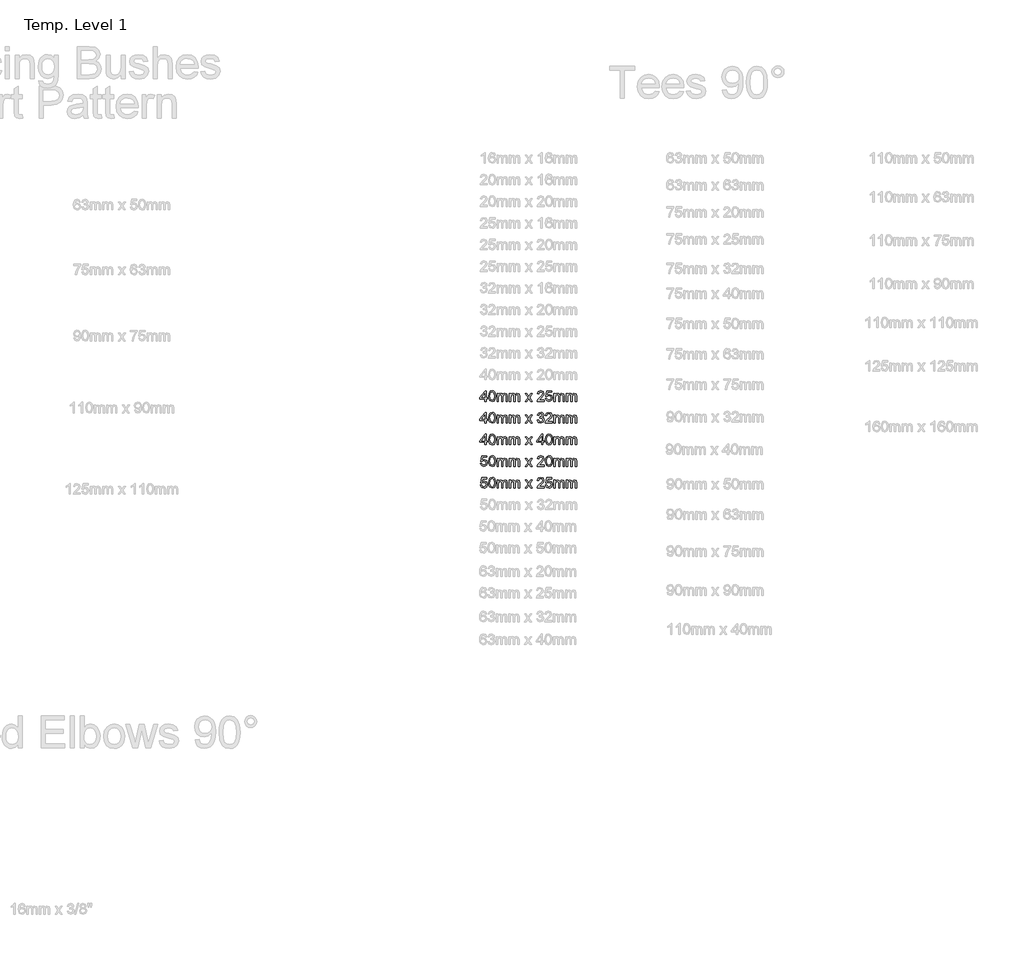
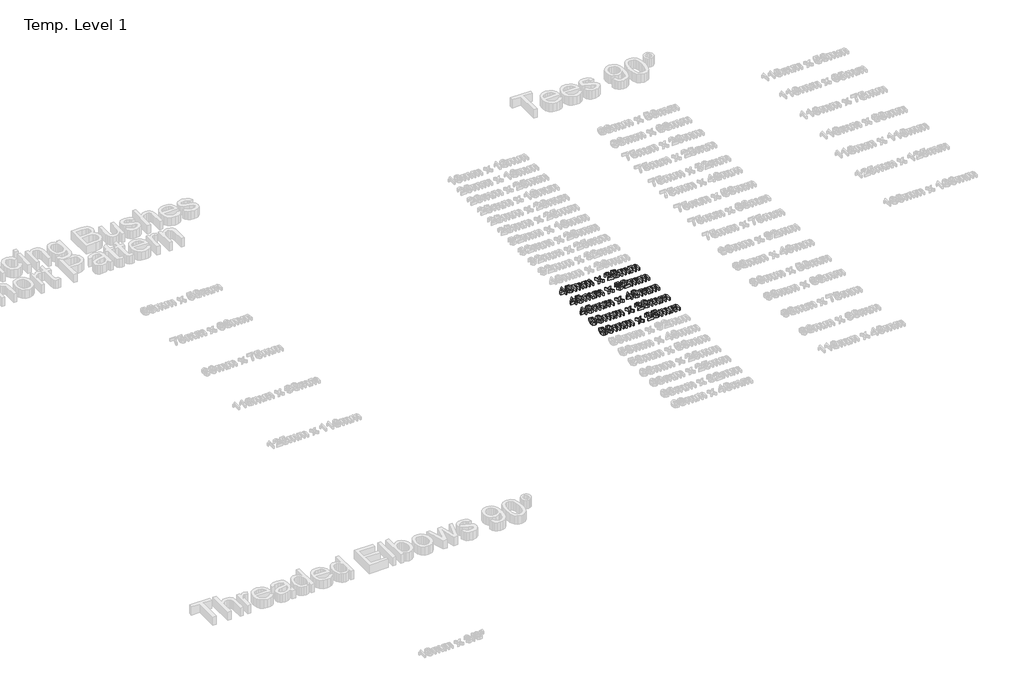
# One storey, part 27 of 62: 5 proxies.
"""IFC4 building model written with IfcOpenShell, lengths in millimetres."""

from ifc_helpers import new_model, si_unit, origin, origin_with_axes, place, context, project, spatial, polyline, outline, extrude, element, save

model = new_model("IFC4")

# Units and contexts
model_context = context("Model", 3, world=origin())
ifc_project = project(units=[si_unit("LENGTHUNIT", "METRE", prefix="MILLI")], contexts=[model_context])

# Site, building, storey
site = spatial("IfcSite", under=ifc_project)
building = spatial("IfcBuilding", under=site)
storey = spatial("IfcBuildingStorey", under=building, Name="Temp. Level 1", Elevation=0.0)

# Proxies
placement = place(None, origin())
element("IfcBuildingElementProxy", 1, Name="50mm Arial", ObjectType="50mm Arial", at=placement, inside=storey, context=model_context, shape_type="SweptSolid", body=[
    extrude(outline(polyline([(26435.7186344, -8469.5564984), (26435.7186344, -8458.0180369), (26413.4109421, -8458.0180369), (26413.4109421, -8451.8641908), (26437.257096, -8421.09496), (26441.8724806, -8421.09496), (26441.8724806, -8451.8641908), (26448.0263267, -8451.8641908), (26448.0263267, -8458.0180369), (26441.8724806, -8458.0180369), (26441.8724806, -8469.5564984), (26435.7186344, -8469.5564984)]), holes=[polyline([(26435.7186344, -8451.8641908), (26435.7186344, -8432.8497677), (26420.9830575, -8451.8641908), (26435.7186344, -8451.8641908)])]), origin_with_axes(), (0.0, 0.0, 1.0), 15.0),
    extrude(outline(polyline([(26453.4109421, -8445.3377484), (26455.2198363, -8431.173085), (26460.5924325, -8423.0060177), (26469.5647883, -8420.3257292), (26476.7522883, -8421.9122677), (26481.7162306, -8426.485585), (26484.600846, -8433.7692388), (26485.7186344, -8445.3377484), (26483.927769, -8459.4423158), (26478.5732017, -8467.6274119), (26469.5647883, -8470.3257292), (26458.3147883, -8465.6382292), (26454.6369036, -8457.3119071), (26453.4109421, -8445.3377484)]), holes=[polyline([(26459.5647883, -8445.3257292), (26462.4494036, -8460.6081811), (26469.5647883, -8464.1718831), (26476.6801729, -8460.5961619), (26479.5647883, -8445.3257292), (26476.7763267, -8430.2175561), (26469.4926729, -8426.4795754), (26462.5455575, -8429.7728446), (26459.5647883, -8445.3257292)])]), origin_with_axes(), (0.0, 0.0, 1.0), 15.0),
    extrude(outline(polyline([(26492.6417113, -8469.5564984), (26492.6417113, -8433.4026523), (26498.7955575, -8433.4026523), (26498.7955575, -8439.3521715), (26503.0263267, -8434.4783734), (26509.0479613, -8432.6334215), (26515.2138267, -8434.5144311), (26518.6032498, -8439.7848638), (26523.4049325, -8434.4212821), (26529.4686344, -8432.6334215), (26537.5155094, -8435.6081811), (26540.334019, -8444.7728446), (26540.334019, -8469.5564984), (26534.1801729, -8469.5564984), (26534.1801729, -8447.4170754), (26533.6092594, -8442.2788542), (26531.5419517, -8439.7488061), (26528.0263267, -8438.7872677), (26521.974644, -8441.25121), (26519.5647883, -8449.1478446), (26519.5647883, -8469.5564984), (26513.4109421, -8469.5564984), (26513.4109421, -8446.7319792), (26511.9866633, -8440.7704408), (26507.3171921, -8438.7872677), (26502.7619036, -8440.1093831), (26499.7330575, -8443.9795754), (26498.7955575, -8451.3233254), (26498.7955575, -8469.5564984), (26492.6417113, -8469.5564984)])), origin_with_axes(), (0.0, 0.0, 1.0), 15.0),
    extrude(outline(polyline([(26549.5647883, -8469.5564984), (26549.5647883, -8433.4026523), (26555.7186344, -8433.4026523), (26555.7186344, -8439.3521715), (26559.9494036, -8434.4783734), (26565.9710383, -8432.6334215), (26572.1369036, -8434.5144311), (26575.5263267, -8439.7848638), (26580.3280094, -8434.4212821), (26586.3917113, -8432.6334215), (26594.4385863, -8435.6081811), (26597.257096, -8444.7728446), (26597.257096, -8469.5564984), (26591.1032498, -8469.5564984), (26591.1032498, -8447.4170754), (26590.5323363, -8442.2788542), (26588.4650286, -8439.7488061), (26584.9494036, -8438.7872677), (26578.897721, -8441.25121), (26576.4878652, -8449.1478446), (26576.4878652, -8469.5564984), (26570.334019, -8469.5564984), (26570.334019, -8446.7319792), (26568.9097402, -8440.7704408), (26564.240269, -8438.7872677), (26559.6849806, -8440.1093831), (26556.6561344, -8443.9795754), (26555.7186344, -8451.3233254), (26555.7186344, -8469.5564984), (26549.5647883, -8469.5564984)])), origin_with_axes(), (0.0, 0.0, 1.0), 15.0),
    extrude(outline(polyline([(26621.8724806, -8469.5564984), (26635.021519, -8451.3834215), (26622.6417113, -8433.4026523), (26630.0455575, -8433.4026523), (26636.0191152, -8442.0564984), (26638.8075767, -8446.1430369), (26641.2234421, -8442.8016908), (26648.0263267, -8433.4026523), (26655.4301729, -8433.4026523), (26642.4253652, -8451.3834215), (26654.9494036, -8469.5564984), (26647.5455575, -8469.5564984), (26640.0094998, -8458.6310177), (26638.6272883, -8456.6358254), (26629.2763267, -8469.5564984), (26621.8724806, -8469.5564984)])), origin_with_axes(), (0.0, 0.0, 1.0), 15.0),
    extrude(outline(polyline([(26709.5647883, -8463.4026523), (26709.5647883, -8469.5564984), (26677.257096, -8469.5564984), (26677.9181536, -8465.31371), (26681.6561344, -8458.7812581), (26689.3604613, -8451.6478446), (26699.9854613, -8441.3954408), (26702.6417113, -8434.4242869), (26700.1357017, -8428.7812581), (26693.5912306, -8426.4795754), (26686.7703171, -8428.7271715), (26684.1801729, -8434.9411138), (26678.0263267, -8434.1718831), (26682.7438748, -8423.8714023), (26693.7234421, -8420.3257292), (26704.7390671, -8424.2680369), (26708.7955575, -8434.0516908), (26707.7018075, -8439.8870273), (26704.0659902, -8445.9206811), (26695.2498844, -8454.3521715), (26688.1705575, -8460.2716427), (26685.3941152, -8463.4026523), (26709.5647883, -8463.4026523)])), origin_with_axes(), (0.0, 0.0, 1.0), 15.0),
    extrude(outline(polyline([(26715.7186344, -8456.4795754), (26721.8724806, -8455.7103446), (26724.9734421, -8462.0504888), (26731.4037306, -8464.1718831), (26739.1200767, -8461.2211619), (26741.8724806, -8453.3906331), (26739.2943556, -8446.0829408), (26731.4998844, -8443.4026523), (26726.0972402, -8444.4723638), (26722.6417113, -8447.2488061), (26716.4878652, -8446.4795754), (26721.8724806, -8421.09496), (26745.7186344, -8421.09496), (26745.7186344, -8427.2488061), (26726.8484421, -8427.2488061), (26724.2162306, -8440.8064984), (26733.2186344, -8437.2488061), (26743.741471, -8441.6598638), (26748.0263267, -8453.0060177), (26744.1681536, -8464.4242869), (26738.6272883, -8468.8503686), (26731.3796921, -8470.3257292), (26720.5203171, -8466.5336619), (26715.7186344, -8456.4795754)])), origin_with_axes(), (0.0, 0.0, 1.0), 15.0),
    extrude(outline(polyline([(26754.9494036, -8469.5564984), (26754.9494036, -8433.4026523), (26761.1032498, -8433.4026523), (26761.1032498, -8439.3521715), (26765.334019, -8434.4783734), (26771.3556536, -8432.6334215), (26777.521519, -8434.5144311), (26780.9109421, -8439.7848638), (26785.7126248, -8434.4212821), (26791.7763267, -8432.6334215), (26799.8232017, -8435.6081811), (26802.6417113, -8444.7728446), (26802.6417113, -8469.5564984), (26796.4878652, -8469.5564984), (26796.4878652, -8447.4170754), (26795.9169517, -8442.2788542), (26793.849644, -8439.7488061), (26790.334019, -8438.7872677), (26784.2823363, -8441.25121), (26781.8724806, -8449.1478446), (26781.8724806, -8469.5564984), (26775.7186344, -8469.5564984), (26775.7186344, -8446.7319792), (26774.2943556, -8440.7704408), (26769.6248844, -8438.7872677), (26765.069596, -8440.1093831), (26762.0407498, -8443.9795754), (26761.1032498, -8451.3233254), (26761.1032498, -8469.5564984), (26754.9494036, -8469.5564984)])), origin_with_axes(), (0.0, 0.0, 1.0), 15.0),
    extrude(outline(polyline([(26811.8724806, -8469.5564984), (26811.8724806, -8433.4026523), (26818.0263267, -8433.4026523), (26818.0263267, -8439.3521715), (26822.257096, -8434.4783734), (26828.2787306, -8432.6334215), (26834.444596, -8434.5144311), (26837.834019, -8439.7848638), (26842.6357017, -8434.4212821), (26848.6994036, -8432.6334215), (26856.7462786, -8435.6081811), (26859.5647883, -8444.7728446), (26859.5647883, -8469.5564984), (26853.4109421, -8469.5564984), (26853.4109421, -8447.4170754), (26852.8400286, -8442.2788542), (26850.772721, -8439.7488061), (26847.257096, -8438.7872677), (26841.2054133, -8441.25121), (26838.7955575, -8449.1478446), (26838.7955575, -8469.5564984), (26832.6417113, -8469.5564984), (26832.6417113, -8446.7319792), (26831.2174325, -8440.7704408), (26826.5479613, -8438.7872677), (26821.9926729, -8440.1093831), (26818.9638267, -8443.9795754), (26818.0263267, -8451.3233254), (26818.0263267, -8469.5564984), (26811.8724806, -8469.5564984)])), origin_with_axes(), (0.0, 0.0, 1.0), 15.0),
])
element("IfcBuildingElementProxy", 2, Name="50mm Arial", ObjectType="50mm Arial", at=placement, inside=storey, context=model_context, shape_type="SweptSolid", body=[
    extrude(outline(polyline([(26435.7186344, -8569.5564984), (26435.7186344, -8558.0180369), (26413.4109421, -8558.0180369), (26413.4109421, -8551.8641908), (26437.257096, -8521.09496), (26441.8724806, -8521.09496), (26441.8724806, -8551.8641908), (26448.0263267, -8551.8641908), (26448.0263267, -8558.0180369), (26441.8724806, -8558.0180369), (26441.8724806, -8569.5564984), (26435.7186344, -8569.5564984)]), holes=[polyline([(26435.7186344, -8551.8641908), (26435.7186344, -8532.8497677), (26420.9830575, -8551.8641908), (26435.7186344, -8551.8641908)])]), origin_with_axes(), (0.0, 0.0, 1.0), 15.0),
    extrude(outline(polyline([(26453.4109421, -8545.3377484), (26455.2198363, -8531.173085), (26460.5924325, -8523.0060177), (26469.5647883, -8520.3257292), (26476.7522883, -8521.9122677), (26481.7162306, -8526.485585), (26484.600846, -8533.7692388), (26485.7186344, -8545.3377484), (26483.927769, -8559.4423158), (26478.5732017, -8567.6274119), (26469.5647883, -8570.3257292), (26458.3147883, -8565.6382292), (26454.6369036, -8557.3119071), (26453.4109421, -8545.3377484)]), holes=[polyline([(26459.5647883, -8545.3257292), (26462.4494036, -8560.6081811), (26469.5647883, -8564.1718831), (26476.6801729, -8560.5961619), (26479.5647883, -8545.3257292), (26476.7763267, -8530.2175561), (26469.4926729, -8526.4795754), (26462.5455575, -8529.7728446), (26459.5647883, -8545.3257292)])]), origin_with_axes(), (0.0, 0.0, 1.0), 15.0),
    extrude(outline(polyline([(26492.6417113, -8569.5564984), (26492.6417113, -8533.4026523), (26498.7955575, -8533.4026523), (26498.7955575, -8539.3521715), (26503.0263267, -8534.4783734), (26509.0479613, -8532.6334215), (26515.2138267, -8534.5144311), (26518.6032498, -8539.7848638), (26523.4049325, -8534.4212821), (26529.4686344, -8532.6334215), (26537.5155094, -8535.6081811), (26540.334019, -8544.7728446), (26540.334019, -8569.5564984), (26534.1801729, -8569.5564984), (26534.1801729, -8547.4170754), (26533.6092594, -8542.2788542), (26531.5419517, -8539.7488061), (26528.0263267, -8538.7872677), (26521.974644, -8541.25121), (26519.5647883, -8549.1478446), (26519.5647883, -8569.5564984), (26513.4109421, -8569.5564984), (26513.4109421, -8546.7319792), (26511.9866633, -8540.7704408), (26507.3171921, -8538.7872677), (26502.7619036, -8540.1093831), (26499.7330575, -8543.9795754), (26498.7955575, -8551.3233254), (26498.7955575, -8569.5564984), (26492.6417113, -8569.5564984)])), origin_with_axes(), (0.0, 0.0, 1.0), 15.0),
    extrude(outline(polyline([(26549.5647883, -8569.5564984), (26549.5647883, -8533.4026523), (26555.7186344, -8533.4026523), (26555.7186344, -8539.3521715), (26559.9494036, -8534.4783734), (26565.9710383, -8532.6334215), (26572.1369036, -8534.5144311), (26575.5263267, -8539.7848638), (26580.3280094, -8534.4212821), (26586.3917113, -8532.6334215), (26594.4385863, -8535.6081811), (26597.257096, -8544.7728446), (26597.257096, -8569.5564984), (26591.1032498, -8569.5564984), (26591.1032498, -8547.4170754), (26590.5323363, -8542.2788542), (26588.4650286, -8539.7488061), (26584.9494036, -8538.7872677), (26578.897721, -8541.25121), (26576.4878652, -8549.1478446), (26576.4878652, -8569.5564984), (26570.334019, -8569.5564984), (26570.334019, -8546.7319792), (26568.9097402, -8540.7704408), (26564.240269, -8538.7872677), (26559.6849806, -8540.1093831), (26556.6561344, -8543.9795754), (26555.7186344, -8551.3233254), (26555.7186344, -8569.5564984), (26549.5647883, -8569.5564984)])), origin_with_axes(), (0.0, 0.0, 1.0), 15.0),
    extrude(outline(polyline([(26621.8724806, -8569.5564984), (26635.021519, -8551.3834215), (26622.6417113, -8533.4026523), (26630.0455575, -8533.4026523), (26636.0191152, -8542.0564984), (26638.8075767, -8546.1430369), (26641.2234421, -8542.8016908), (26648.0263267, -8533.4026523), (26655.4301729, -8533.4026523), (26642.4253652, -8551.3834215), (26654.9494036, -8569.5564984), (26647.5455575, -8569.5564984), (26640.0094998, -8558.6310177), (26638.6272883, -8556.6358254), (26629.2763267, -8569.5564984), (26621.8724806, -8569.5564984)])), origin_with_axes(), (0.0, 0.0, 1.0), 15.0),
    extrude(outline(polyline([(26678.0263267, -8556.4795754), (26684.1801729, -8555.7103446), (26687.5756056, -8562.18871), (26693.927769, -8564.1718831), (26701.4037306, -8561.4435177), (26704.1801729, -8554.68871), (26701.427769, -8548.3245273), (26694.4325767, -8545.8064984), (26690.1176729, -8546.4795754), (26690.802769, -8540.3257292), (26698.771519, -8538.6310177), (26701.8724806, -8533.1983254), (26699.6248844, -8528.3846234), (26693.8316152, -8526.4795754), (26687.9662306, -8528.4026523), (26684.9494036, -8534.1718831), (26678.7955575, -8533.4026523), (26683.8316152, -8523.75121), (26693.615269, -8520.3257292), (26701.037144, -8522.0144311), (26706.2294517, -8526.6298158), (26708.0263267, -8532.8377484), (26706.319596, -8538.5108254), (26701.271519, -8542.5853446), (26707.9782498, -8546.7920754), (26710.334019, -8554.7968831), (26705.6224806, -8565.8064984), (26693.7114229, -8570.3257292), (26682.9181536, -8566.4675561), (26678.0263267, -8556.4795754)])), origin_with_axes(), (0.0, 0.0, 1.0), 15.0),
    extrude(outline(polyline([(26747.257096, -8563.4026523), (26747.257096, -8569.5564984), (26714.9494036, -8569.5564984), (26715.6104613, -8565.31371), (26719.3484421, -8558.7812581), (26727.052769, -8551.6478446), (26737.677769, -8541.3954408), (26740.334019, -8534.4242869), (26737.8280094, -8528.7812581), (26731.2835383, -8526.4795754), (26724.4626248, -8528.7271715), (26721.8724806, -8534.9411138), (26715.7186344, -8534.1718831), (26720.4361825, -8523.8714023), (26731.4157498, -8520.3257292), (26742.4313748, -8524.2680369), (26746.4878652, -8534.0516908), (26745.3941152, -8539.8870273), (26741.7582979, -8545.9206811), (26732.9421921, -8554.3521715), (26725.8628652, -8560.2716427), (26723.0864229, -8563.4026523), (26747.257096, -8563.4026523)])), origin_with_axes(), (0.0, 0.0, 1.0), 15.0),
    extrude(outline(polyline([(26754.9494036, -8569.5564984), (26754.9494036, -8533.4026523), (26761.1032498, -8533.4026523), (26761.1032498, -8539.3521715), (26765.334019, -8534.4783734), (26771.3556536, -8532.6334215), (26777.521519, -8534.5144311), (26780.9109421, -8539.7848638), (26785.7126248, -8534.4212821), (26791.7763267, -8532.6334215), (26799.8232017, -8535.6081811), (26802.6417113, -8544.7728446), (26802.6417113, -8569.5564984), (26796.4878652, -8569.5564984), (26796.4878652, -8547.4170754), (26795.9169517, -8542.2788542), (26793.849644, -8539.7488061), (26790.334019, -8538.7872677), (26784.2823363, -8541.25121), (26781.8724806, -8549.1478446), (26781.8724806, -8569.5564984), (26775.7186344, -8569.5564984), (26775.7186344, -8546.7319792), (26774.2943556, -8540.7704408), (26769.6248844, -8538.7872677), (26765.069596, -8540.1093831), (26762.0407498, -8543.9795754), (26761.1032498, -8551.3233254), (26761.1032498, -8569.5564984), (26754.9494036, -8569.5564984)])), origin_with_axes(), (0.0, 0.0, 1.0), 15.0),
    extrude(outline(polyline([(26811.8724806, -8569.5564984), (26811.8724806, -8533.4026523), (26818.0263267, -8533.4026523), (26818.0263267, -8539.3521715), (26822.257096, -8534.4783734), (26828.2787306, -8532.6334215), (26834.444596, -8534.5144311), (26837.834019, -8539.7848638), (26842.6357017, -8534.4212821), (26848.6994036, -8532.6334215), (26856.7462786, -8535.6081811), (26859.5647883, -8544.7728446), (26859.5647883, -8569.5564984), (26853.4109421, -8569.5564984), (26853.4109421, -8547.4170754), (26852.8400286, -8542.2788542), (26850.772721, -8539.7488061), (26847.257096, -8538.7872677), (26841.2054133, -8541.25121), (26838.7955575, -8549.1478446), (26838.7955575, -8569.5564984), (26832.6417113, -8569.5564984), (26832.6417113, -8546.7319792), (26831.2174325, -8540.7704408), (26826.5479613, -8538.7872677), (26821.9926729, -8540.1093831), (26818.9638267, -8543.9795754), (26818.0263267, -8551.3233254), (26818.0263267, -8569.5564984), (26811.8724806, -8569.5564984)])), origin_with_axes(), (0.0, 0.0, 1.0), 15.0),
])
element("IfcBuildingElementProxy", 3, Name="50mm Arial", ObjectType="50mm Arial", at=placement, inside=storey, context=model_context, shape_type="SweptSolid", body=[
    extrude(outline(polyline([(26435.7186344, -8669.5564984), (26435.7186344, -8658.0180369), (26413.4109421, -8658.0180369), (26413.4109421, -8651.8641908), (26437.257096, -8621.09496), (26441.8724806, -8621.09496), (26441.8724806, -8651.8641908), (26448.0263267, -8651.8641908), (26448.0263267, -8658.0180369), (26441.8724806, -8658.0180369), (26441.8724806, -8669.5564984), (26435.7186344, -8669.5564984)]), holes=[polyline([(26435.7186344, -8651.8641908), (26435.7186344, -8632.8497677), (26420.9830575, -8651.8641908), (26435.7186344, -8651.8641908)])]), origin_with_axes(), (0.0, 0.0, 1.0), 15.0),
    extrude(outline(polyline([(26453.4109421, -8645.3377484), (26455.2198363, -8631.173085), (26460.5924325, -8623.0060177), (26469.5647883, -8620.3257292), (26476.7522883, -8621.9122677), (26481.7162306, -8626.485585), (26484.600846, -8633.7692388), (26485.7186344, -8645.3377484), (26483.927769, -8659.4423158), (26478.5732017, -8667.6274119), (26469.5647883, -8670.3257292), (26458.3147883, -8665.6382292), (26454.6369036, -8657.3119071), (26453.4109421, -8645.3377484)]), holes=[polyline([(26459.5647883, -8645.3257292), (26462.4494036, -8660.6081811), (26469.5647883, -8664.1718831), (26476.6801729, -8660.5961619), (26479.5647883, -8645.3257292), (26476.7763267, -8630.2175561), (26469.4926729, -8626.4795754), (26462.5455575, -8629.7728446), (26459.5647883, -8645.3257292)])]), origin_with_axes(), (0.0, 0.0, 1.0), 15.0),
    extrude(outline(polyline([(26492.6417113, -8669.5564984), (26492.6417113, -8633.4026523), (26498.7955575, -8633.4026523), (26498.7955575, -8639.3521715), (26503.0263267, -8634.4783734), (26509.0479613, -8632.6334215), (26515.2138267, -8634.5144311), (26518.6032498, -8639.7848638), (26523.4049325, -8634.4212821), (26529.4686344, -8632.6334215), (26537.5155094, -8635.6081811), (26540.334019, -8644.7728446), (26540.334019, -8669.5564984), (26534.1801729, -8669.5564984), (26534.1801729, -8647.4170754), (26533.6092594, -8642.2788542), (26531.5419517, -8639.7488061), (26528.0263267, -8638.7872677), (26521.974644, -8641.25121), (26519.5647883, -8649.1478446), (26519.5647883, -8669.5564984), (26513.4109421, -8669.5564984), (26513.4109421, -8646.7319792), (26511.9866633, -8640.7704408), (26507.3171921, -8638.7872677), (26502.7619036, -8640.1093831), (26499.7330575, -8643.9795754), (26498.7955575, -8651.3233254), (26498.7955575, -8669.5564984), (26492.6417113, -8669.5564984)])), origin_with_axes(), (0.0, 0.0, 1.0), 15.0),
    extrude(outline(polyline([(26549.5647883, -8669.5564984), (26549.5647883, -8633.4026523), (26555.7186344, -8633.4026523), (26555.7186344, -8639.3521715), (26559.9494036, -8634.4783734), (26565.9710383, -8632.6334215), (26572.1369036, -8634.5144311), (26575.5263267, -8639.7848638), (26580.3280094, -8634.4212821), (26586.3917113, -8632.6334215), (26594.4385863, -8635.6081811), (26597.257096, -8644.7728446), (26597.257096, -8669.5564984), (26591.1032498, -8669.5564984), (26591.1032498, -8647.4170754), (26590.5323363, -8642.2788542), (26588.4650286, -8639.7488061), (26584.9494036, -8638.7872677), (26578.897721, -8641.25121), (26576.4878652, -8649.1478446), (26576.4878652, -8669.5564984), (26570.334019, -8669.5564984), (26570.334019, -8646.7319792), (26568.9097402, -8640.7704408), (26564.240269, -8638.7872677), (26559.6849806, -8640.1093831), (26556.6561344, -8643.9795754), (26555.7186344, -8651.3233254), (26555.7186344, -8669.5564984), (26549.5647883, -8669.5564984)])), origin_with_axes(), (0.0, 0.0, 1.0), 15.0),
    extrude(outline(polyline([(26621.8724806, -8669.5564984), (26635.021519, -8651.3834215), (26622.6417113, -8633.4026523), (26630.0455575, -8633.4026523), (26636.0191152, -8642.0564984), (26638.8075767, -8646.1430369), (26641.2234421, -8642.8016908), (26648.0263267, -8633.4026523), (26655.4301729, -8633.4026523), (26642.4253652, -8651.3834215), (26654.9494036, -8669.5564984), (26647.5455575, -8669.5564984), (26640.0094998, -8658.6310177), (26638.6272883, -8656.6358254), (26629.2763267, -8669.5564984), (26621.8724806, -8669.5564984)])), origin_with_axes(), (0.0, 0.0, 1.0), 15.0),
    extrude(outline(polyline([(26698.0263267, -8669.5564984), (26698.0263267, -8658.0180369), (26675.7186344, -8658.0180369), (26675.7186344, -8651.8641908), (26699.5647883, -8621.09496), (26704.1801729, -8621.09496), (26704.1801729, -8651.8641908), (26710.334019, -8651.8641908), (26710.334019, -8658.0180369), (26704.1801729, -8658.0180369), (26704.1801729, -8669.5564984), (26698.0263267, -8669.5564984)]), holes=[polyline([(26698.0263267, -8651.8641908), (26698.0263267, -8632.8497677), (26683.2907498, -8651.8641908), (26698.0263267, -8651.8641908)])]), origin_with_axes(), (0.0, 0.0, 1.0), 15.0),
    extrude(outline(polyline([(26715.7186344, -8645.3377484), (26717.5275286, -8631.173085), (26722.9001248, -8623.0060177), (26731.8724806, -8620.3257292), (26739.0599806, -8621.9122677), (26744.0239229, -8626.485585), (26746.9085383, -8633.7692388), (26748.0263267, -8645.3377484), (26746.2354613, -8659.4423158), (26740.880894, -8667.6274119), (26731.8724806, -8670.3257292), (26720.6224806, -8665.6382292), (26716.944596, -8657.3119071), (26715.7186344, -8645.3377484)]), holes=[polyline([(26721.8724806, -8645.3257292), (26724.757096, -8660.6081811), (26731.8724806, -8664.1718831), (26738.9878652, -8660.5961619), (26741.8724806, -8645.3257292), (26739.084019, -8630.2175561), (26731.8003652, -8626.4795754), (26724.8532498, -8629.7728446), (26721.8724806, -8645.3257292)])]), origin_with_axes(), (0.0, 0.0, 1.0), 15.0),
    extrude(outline(polyline([(26754.9494036, -8669.5564984), (26754.9494036, -8633.4026523), (26761.1032498, -8633.4026523), (26761.1032498, -8639.3521715), (26765.334019, -8634.4783734), (26771.3556536, -8632.6334215), (26777.521519, -8634.5144311), (26780.9109421, -8639.7848638), (26785.7126248, -8634.4212821), (26791.7763267, -8632.6334215), (26799.8232017, -8635.6081811), (26802.6417113, -8644.7728446), (26802.6417113, -8669.5564984), (26796.4878652, -8669.5564984), (26796.4878652, -8647.4170754), (26795.9169517, -8642.2788542), (26793.849644, -8639.7488061), (26790.334019, -8638.7872677), (26784.2823363, -8641.25121), (26781.8724806, -8649.1478446), (26781.8724806, -8669.5564984), (26775.7186344, -8669.5564984), (26775.7186344, -8646.7319792), (26774.2943556, -8640.7704408), (26769.6248844, -8638.7872677), (26765.069596, -8640.1093831), (26762.0407498, -8643.9795754), (26761.1032498, -8651.3233254), (26761.1032498, -8669.5564984), (26754.9494036, -8669.5564984)])), origin_with_axes(), (0.0, 0.0, 1.0), 15.0),
    extrude(outline(polyline([(26811.8724806, -8669.5564984), (26811.8724806, -8633.4026523), (26818.0263267, -8633.4026523), (26818.0263267, -8639.3521715), (26822.257096, -8634.4783734), (26828.2787306, -8632.6334215), (26834.444596, -8634.5144311), (26837.834019, -8639.7848638), (26842.6357017, -8634.4212821), (26848.6994036, -8632.6334215), (26856.7462786, -8635.6081811), (26859.5647883, -8644.7728446), (26859.5647883, -8669.5564984), (26853.4109421, -8669.5564984), (26853.4109421, -8647.4170754), (26852.8400286, -8642.2788542), (26850.772721, -8639.7488061), (26847.257096, -8638.7872677), (26841.2054133, -8641.25121), (26838.7955575, -8649.1478446), (26838.7955575, -8669.5564984), (26832.6417113, -8669.5564984), (26832.6417113, -8646.7319792), (26831.2174325, -8640.7704408), (26826.5479613, -8638.7872677), (26821.9926729, -8640.1093831), (26818.9638267, -8643.9795754), (26818.0263267, -8651.3233254), (26818.0263267, -8669.5564984), (26811.8724806, -8669.5564984)])), origin_with_axes(), (0.0, 0.0, 1.0), 15.0),
])
element("IfcBuildingElementProxy", 4, Name="50mm Arial", ObjectType="50mm Arial", at=placement, inside=storey, context=model_context, shape_type="SweptSolid", body=[
    extrude(outline(polyline([(26415.7186344, -8756.4795754), (26421.8724806, -8755.7103446), (26424.9734421, -8762.0504888), (26431.4037306, -8764.1718831), (26439.1200767, -8761.2211619), (26441.8724806, -8753.3906331), (26439.2943556, -8746.0829408), (26431.4998844, -8743.4026523), (26426.0972402, -8744.4723638), (26422.6417113, -8747.2488061), (26416.4878652, -8746.4795754), (26421.8724806, -8721.09496), (26445.7186344, -8721.09496), (26445.7186344, -8727.2488061), (26426.8484421, -8727.2488061), (26424.2162306, -8740.8064984), (26433.2186344, -8737.2488061), (26443.741471, -8741.6598638), (26448.0263267, -8753.0060177), (26444.1681536, -8764.4242869), (26438.6272883, -8768.8503686), (26431.3796921, -8770.3257292), (26420.5203171, -8766.5336619), (26415.7186344, -8756.4795754)])), origin_with_axes(), (0.0, 0.0, 1.0), 15.0),
    extrude(outline(polyline([(26453.4109421, -8745.3377484), (26455.2198363, -8731.173085), (26460.5924325, -8723.0060177), (26469.5647883, -8720.3257292), (26476.7522883, -8721.9122677), (26481.7162306, -8726.485585), (26484.600846, -8733.7692388), (26485.7186344, -8745.3377484), (26483.927769, -8759.4423158), (26478.5732017, -8767.6274119), (26469.5647883, -8770.3257292), (26458.3147883, -8765.6382292), (26454.6369036, -8757.3119071), (26453.4109421, -8745.3377484)]), holes=[polyline([(26459.5647883, -8745.3257292), (26462.4494036, -8760.6081811), (26469.5647883, -8764.1718831), (26476.6801729, -8760.5961619), (26479.5647883, -8745.3257292), (26476.7763267, -8730.2175561), (26469.4926729, -8726.4795754), (26462.5455575, -8729.7728446), (26459.5647883, -8745.3257292)])]), origin_with_axes(), (0.0, 0.0, 1.0), 15.0),
    extrude(outline(polyline([(26492.6417113, -8769.5564984), (26492.6417113, -8733.4026523), (26498.7955575, -8733.4026523), (26498.7955575, -8739.3521715), (26503.0263267, -8734.4783734), (26509.0479613, -8732.6334215), (26515.2138267, -8734.5144311), (26518.6032498, -8739.7848638), (26523.4049325, -8734.4212821), (26529.4686344, -8732.6334215), (26537.5155094, -8735.6081811), (26540.334019, -8744.7728446), (26540.334019, -8769.5564984), (26534.1801729, -8769.5564984), (26534.1801729, -8747.4170754), (26533.6092594, -8742.2788542), (26531.5419517, -8739.7488061), (26528.0263267, -8738.7872677), (26521.974644, -8741.25121), (26519.5647883, -8749.1478446), (26519.5647883, -8769.5564984), (26513.4109421, -8769.5564984), (26513.4109421, -8746.7319792), (26511.9866633, -8740.7704408), (26507.3171921, -8738.7872677), (26502.7619036, -8740.1093831), (26499.7330575, -8743.9795754), (26498.7955575, -8751.3233254), (26498.7955575, -8769.5564984), (26492.6417113, -8769.5564984)])), origin_with_axes(), (0.0, 0.0, 1.0), 15.0),
    extrude(outline(polyline([(26549.5647883, -8769.5564984), (26549.5647883, -8733.4026523), (26555.7186344, -8733.4026523), (26555.7186344, -8739.3521715), (26559.9494036, -8734.4783734), (26565.9710383, -8732.6334215), (26572.1369036, -8734.5144311), (26575.5263267, -8739.7848638), (26580.3280094, -8734.4212821), (26586.3917113, -8732.6334215), (26594.4385863, -8735.6081811), (26597.257096, -8744.7728446), (26597.257096, -8769.5564984), (26591.1032498, -8769.5564984), (26591.1032498, -8747.4170754), (26590.5323363, -8742.2788542), (26588.4650286, -8739.7488061), (26584.9494036, -8738.7872677), (26578.897721, -8741.25121), (26576.4878652, -8749.1478446), (26576.4878652, -8769.5564984), (26570.334019, -8769.5564984), (26570.334019, -8746.7319792), (26568.9097402, -8740.7704408), (26564.240269, -8738.7872677), (26559.6849806, -8740.1093831), (26556.6561344, -8743.9795754), (26555.7186344, -8751.3233254), (26555.7186344, -8769.5564984), (26549.5647883, -8769.5564984)])), origin_with_axes(), (0.0, 0.0, 1.0), 15.0),
    extrude(outline(polyline([(26621.8724806, -8769.5564984), (26635.021519, -8751.3834215), (26622.6417113, -8733.4026523), (26630.0455575, -8733.4026523), (26636.0191152, -8742.0564984), (26638.8075767, -8746.1430369), (26641.2234421, -8742.8016908), (26648.0263267, -8733.4026523), (26655.4301729, -8733.4026523), (26642.4253652, -8751.3834215), (26654.9494036, -8769.5564984), (26647.5455575, -8769.5564984), (26640.0094998, -8758.6310177), (26638.6272883, -8756.6358254), (26629.2763267, -8769.5564984), (26621.8724806, -8769.5564984)])), origin_with_axes(), (0.0, 0.0, 1.0), 15.0),
    extrude(outline(polyline([(26709.5647883, -8763.4026523), (26709.5647883, -8769.5564984), (26677.257096, -8769.5564984), (26677.9181536, -8765.31371), (26681.6561344, -8758.7812581), (26689.3604613, -8751.6478446), (26699.9854613, -8741.3954408), (26702.6417113, -8734.4242869), (26700.1357017, -8728.7812581), (26693.5912306, -8726.4795754), (26686.7703171, -8728.7271715), (26684.1801729, -8734.9411138), (26678.0263267, -8734.1718831), (26682.7438748, -8723.8714023), (26693.7234421, -8720.3257292), (26704.7390671, -8724.2680369), (26708.7955575, -8734.0516908), (26707.7018075, -8739.8870273), (26704.0659902, -8745.9206811), (26695.2498844, -8754.3521715), (26688.1705575, -8760.2716427), (26685.3941152, -8763.4026523), (26709.5647883, -8763.4026523)])), origin_with_axes(), (0.0, 0.0, 1.0), 15.0),
    extrude(outline(polyline([(26715.7186344, -8745.3377484), (26717.5275286, -8731.173085), (26722.9001248, -8723.0060177), (26731.8724806, -8720.3257292), (26739.0599806, -8721.9122677), (26744.0239229, -8726.485585), (26746.9085383, -8733.7692388), (26748.0263267, -8745.3377484), (26746.2354613, -8759.4423158), (26740.880894, -8767.6274119), (26731.8724806, -8770.3257292), (26720.6224806, -8765.6382292), (26716.944596, -8757.3119071), (26715.7186344, -8745.3377484)]), holes=[polyline([(26721.8724806, -8745.3257292), (26724.757096, -8760.6081811), (26731.8724806, -8764.1718831), (26738.9878652, -8760.5961619), (26741.8724806, -8745.3257292), (26739.084019, -8730.2175561), (26731.8003652, -8726.4795754), (26724.8532498, -8729.7728446), (26721.8724806, -8745.3257292)])]), origin_with_axes(), (0.0, 0.0, 1.0), 15.0),
    extrude(outline(polyline([(26754.9494036, -8769.5564984), (26754.9494036, -8733.4026523), (26761.1032498, -8733.4026523), (26761.1032498, -8739.3521715), (26765.334019, -8734.4783734), (26771.3556536, -8732.6334215), (26777.521519, -8734.5144311), (26780.9109421, -8739.7848638), (26785.7126248, -8734.4212821), (26791.7763267, -8732.6334215), (26799.8232017, -8735.6081811), (26802.6417113, -8744.7728446), (26802.6417113, -8769.5564984), (26796.4878652, -8769.5564984), (26796.4878652, -8747.4170754), (26795.9169517, -8742.2788542), (26793.849644, -8739.7488061), (26790.334019, -8738.7872677), (26784.2823363, -8741.25121), (26781.8724806, -8749.1478446), (26781.8724806, -8769.5564984), (26775.7186344, -8769.5564984), (26775.7186344, -8746.7319792), (26774.2943556, -8740.7704408), (26769.6248844, -8738.7872677), (26765.069596, -8740.1093831), (26762.0407498, -8743.9795754), (26761.1032498, -8751.3233254), (26761.1032498, -8769.5564984), (26754.9494036, -8769.5564984)])), origin_with_axes(), (0.0, 0.0, 1.0), 15.0),
    extrude(outline(polyline([(26811.8724806, -8769.5564984), (26811.8724806, -8733.4026523), (26818.0263267, -8733.4026523), (26818.0263267, -8739.3521715), (26822.257096, -8734.4783734), (26828.2787306, -8732.6334215), (26834.444596, -8734.5144311), (26837.834019, -8739.7848638), (26842.6357017, -8734.4212821), (26848.6994036, -8732.6334215), (26856.7462786, -8735.6081811), (26859.5647883, -8744.7728446), (26859.5647883, -8769.5564984), (26853.4109421, -8769.5564984), (26853.4109421, -8747.4170754), (26852.8400286, -8742.2788542), (26850.772721, -8739.7488061), (26847.257096, -8738.7872677), (26841.2054133, -8741.25121), (26838.7955575, -8749.1478446), (26838.7955575, -8769.5564984), (26832.6417113, -8769.5564984), (26832.6417113, -8746.7319792), (26831.2174325, -8740.7704408), (26826.5479613, -8738.7872677), (26821.9926729, -8740.1093831), (26818.9638267, -8743.9795754), (26818.0263267, -8751.3233254), (26818.0263267, -8769.5564984), (26811.8724806, -8769.5564984)])), origin_with_axes(), (0.0, 0.0, 1.0), 15.0),
])
element("IfcBuildingElementProxy", 5, Name="50mm Arial", ObjectType="50mm Arial", at=placement, inside=storey, context=model_context, shape_type="SweptSolid", body=[
    extrude(outline(polyline([(26415.7186344, -8856.4795754), (26421.8724806, -8855.7103446), (26424.9734421, -8862.0504888), (26431.4037306, -8864.1718831), (26439.1200767, -8861.2211619), (26441.8724806, -8853.3906331), (26439.2943556, -8846.0829408), (26431.4998844, -8843.4026523), (26426.0972402, -8844.4723638), (26422.6417113, -8847.2488061), (26416.4878652, -8846.4795754), (26421.8724806, -8821.09496), (26445.7186344, -8821.09496), (26445.7186344, -8827.2488061), (26426.8484421, -8827.2488061), (26424.2162306, -8840.8064984), (26433.2186344, -8837.2488061), (26443.741471, -8841.6598638), (26448.0263267, -8853.0060177), (26444.1681536, -8864.4242869), (26438.6272883, -8868.8503686), (26431.3796921, -8870.3257292), (26420.5203171, -8866.5336619), (26415.7186344, -8856.4795754)])), origin_with_axes(), (0.0, 0.0, 1.0), 15.0),
    extrude(outline(polyline([(26453.4109421, -8845.3377484), (26455.2198363, -8831.173085), (26460.5924325, -8823.0060177), (26469.5647883, -8820.3257292), (26476.7522883, -8821.9122677), (26481.7162306, -8826.485585), (26484.600846, -8833.7692388), (26485.7186344, -8845.3377484), (26483.927769, -8859.4423158), (26478.5732017, -8867.6274119), (26469.5647883, -8870.3257292), (26458.3147883, -8865.6382292), (26454.6369036, -8857.3119071), (26453.4109421, -8845.3377484)]), holes=[polyline([(26459.5647883, -8845.3257292), (26462.4494036, -8860.6081811), (26469.5647883, -8864.1718831), (26476.6801729, -8860.5961619), (26479.5647883, -8845.3257292), (26476.7763267, -8830.2175561), (26469.4926729, -8826.4795754), (26462.5455575, -8829.7728446), (26459.5647883, -8845.3257292)])]), origin_with_axes(), (0.0, 0.0, 1.0), 15.0),
    extrude(outline(polyline([(26492.6417113, -8869.5564984), (26492.6417113, -8833.4026523), (26498.7955575, -8833.4026523), (26498.7955575, -8839.3521715), (26503.0263267, -8834.4783734), (26509.0479613, -8832.6334215), (26515.2138267, -8834.5144311), (26518.6032498, -8839.7848638), (26523.4049325, -8834.4212821), (26529.4686344, -8832.6334215), (26537.5155094, -8835.6081811), (26540.334019, -8844.7728446), (26540.334019, -8869.5564984), (26534.1801729, -8869.5564984), (26534.1801729, -8847.4170754), (26533.6092594, -8842.2788542), (26531.5419517, -8839.7488061), (26528.0263267, -8838.7872677), (26521.974644, -8841.25121), (26519.5647883, -8849.1478446), (26519.5647883, -8869.5564984), (26513.4109421, -8869.5564984), (26513.4109421, -8846.7319792), (26511.9866633, -8840.7704408), (26507.3171921, -8838.7872677), (26502.7619036, -8840.1093831), (26499.7330575, -8843.9795754), (26498.7955575, -8851.3233254), (26498.7955575, -8869.5564984), (26492.6417113, -8869.5564984)])), origin_with_axes(), (0.0, 0.0, 1.0), 15.0),
    extrude(outline(polyline([(26549.5647883, -8869.5564984), (26549.5647883, -8833.4026523), (26555.7186344, -8833.4026523), (26555.7186344, -8839.3521715), (26559.9494036, -8834.4783734), (26565.9710383, -8832.6334215), (26572.1369036, -8834.5144311), (26575.5263267, -8839.7848638), (26580.3280094, -8834.4212821), (26586.3917113, -8832.6334215), (26594.4385863, -8835.6081811), (26597.257096, -8844.7728446), (26597.257096, -8869.5564984), (26591.1032498, -8869.5564984), (26591.1032498, -8847.4170754), (26590.5323363, -8842.2788542), (26588.4650286, -8839.7488061), (26584.9494036, -8838.7872677), (26578.897721, -8841.25121), (26576.4878652, -8849.1478446), (26576.4878652, -8869.5564984), (26570.334019, -8869.5564984), (26570.334019, -8846.7319792), (26568.9097402, -8840.7704408), (26564.240269, -8838.7872677), (26559.6849806, -8840.1093831), (26556.6561344, -8843.9795754), (26555.7186344, -8851.3233254), (26555.7186344, -8869.5564984), (26549.5647883, -8869.5564984)])), origin_with_axes(), (0.0, 0.0, 1.0), 15.0),
    extrude(outline(polyline([(26621.8724806, -8869.5564984), (26635.021519, -8851.3834215), (26622.6417113, -8833.4026523), (26630.0455575, -8833.4026523), (26636.0191152, -8842.0564984), (26638.8075767, -8846.1430369), (26641.2234421, -8842.8016908), (26648.0263267, -8833.4026523), (26655.4301729, -8833.4026523), (26642.4253652, -8851.3834215), (26654.9494036, -8869.5564984), (26647.5455575, -8869.5564984), (26640.0094998, -8858.6310177), (26638.6272883, -8856.6358254), (26629.2763267, -8869.5564984), (26621.8724806, -8869.5564984)])), origin_with_axes(), (0.0, 0.0, 1.0), 15.0),
    extrude(outline(polyline([(26709.5647883, -8863.4026523), (26709.5647883, -8869.5564984), (26677.257096, -8869.5564984), (26677.9181536, -8865.31371), (26681.6561344, -8858.7812581), (26689.3604613, -8851.6478446), (26699.9854613, -8841.3954408), (26702.6417113, -8834.4242869), (26700.1357017, -8828.7812581), (26693.5912306, -8826.4795754), (26686.7703171, -8828.7271715), (26684.1801729, -8834.9411138), (26678.0263267, -8834.1718831), (26682.7438748, -8823.8714023), (26693.7234421, -8820.3257292), (26704.7390671, -8824.2680369), (26708.7955575, -8834.0516908), (26707.7018075, -8839.8870273), (26704.0659902, -8845.9206811), (26695.2498844, -8854.3521715), (26688.1705575, -8860.2716427), (26685.3941152, -8863.4026523), (26709.5647883, -8863.4026523)])), origin_with_axes(), (0.0, 0.0, 1.0), 15.0),
    extrude(outline(polyline([(26715.7186344, -8856.4795754), (26721.8724806, -8855.7103446), (26724.9734421, -8862.0504888), (26731.4037306, -8864.1718831), (26739.1200767, -8861.2211619), (26741.8724806, -8853.3906331), (26739.2943556, -8846.0829408), (26731.4998844, -8843.4026523), (26726.0972402, -8844.4723638), (26722.6417113, -8847.2488061), (26716.4878652, -8846.4795754), (26721.8724806, -8821.09496), (26745.7186344, -8821.09496), (26745.7186344, -8827.2488061), (26726.8484421, -8827.2488061), (26724.2162306, -8840.8064984), (26733.2186344, -8837.2488061), (26743.741471, -8841.6598638), (26748.0263267, -8853.0060177), (26744.1681536, -8864.4242869), (26738.6272883, -8868.8503686), (26731.3796921, -8870.3257292), (26720.5203171, -8866.5336619), (26715.7186344, -8856.4795754)])), origin_with_axes(), (0.0, 0.0, 1.0), 15.0),
    extrude(outline(polyline([(26754.9494036, -8869.5564984), (26754.9494036, -8833.4026523), (26761.1032498, -8833.4026523), (26761.1032498, -8839.3521715), (26765.334019, -8834.4783734), (26771.3556536, -8832.6334215), (26777.521519, -8834.5144311), (26780.9109421, -8839.7848638), (26785.7126248, -8834.4212821), (26791.7763267, -8832.6334215), (26799.8232017, -8835.6081811), (26802.6417113, -8844.7728446), (26802.6417113, -8869.5564984), (26796.4878652, -8869.5564984), (26796.4878652, -8847.4170754), (26795.9169517, -8842.2788542), (26793.849644, -8839.7488061), (26790.334019, -8838.7872677), (26784.2823363, -8841.25121), (26781.8724806, -8849.1478446), (26781.8724806, -8869.5564984), (26775.7186344, -8869.5564984), (26775.7186344, -8846.7319792), (26774.2943556, -8840.7704408), (26769.6248844, -8838.7872677), (26765.069596, -8840.1093831), (26762.0407498, -8843.9795754), (26761.1032498, -8851.3233254), (26761.1032498, -8869.5564984), (26754.9494036, -8869.5564984)])), origin_with_axes(), (0.0, 0.0, 1.0), 15.0),
    extrude(outline(polyline([(26811.8724806, -8869.5564984), (26811.8724806, -8833.4026523), (26818.0263267, -8833.4026523), (26818.0263267, -8839.3521715), (26822.257096, -8834.4783734), (26828.2787306, -8832.6334215), (26834.444596, -8834.5144311), (26837.834019, -8839.7848638), (26842.6357017, -8834.4212821), (26848.6994036, -8832.6334215), (26856.7462786, -8835.6081811), (26859.5647883, -8844.7728446), (26859.5647883, -8869.5564984), (26853.4109421, -8869.5564984), (26853.4109421, -8847.4170754), (26852.8400286, -8842.2788542), (26850.772721, -8839.7488061), (26847.257096, -8838.7872677), (26841.2054133, -8841.25121), (26838.7955575, -8849.1478446), (26838.7955575, -8869.5564984), (26832.6417113, -8869.5564984), (26832.6417113, -8846.7319792), (26831.2174325, -8840.7704408), (26826.5479613, -8838.7872677), (26821.9926729, -8840.1093831), (26818.9638267, -8843.9795754), (26818.0263267, -8851.3233254), (26818.0263267, -8869.5564984), (26811.8724806, -8869.5564984)])), origin_with_axes(), (0.0, 0.0, 1.0), 15.0),
])

save(model, "model.ifc")
